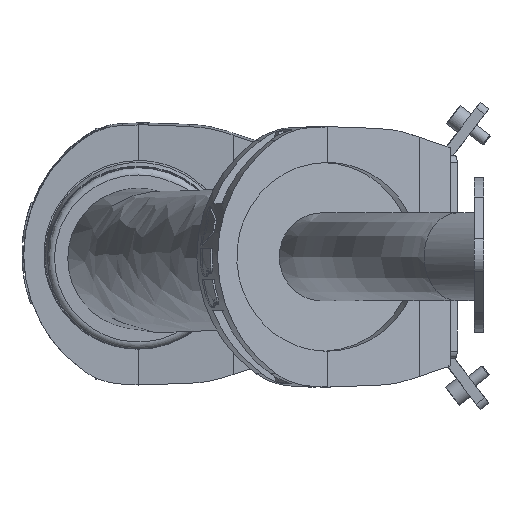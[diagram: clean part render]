
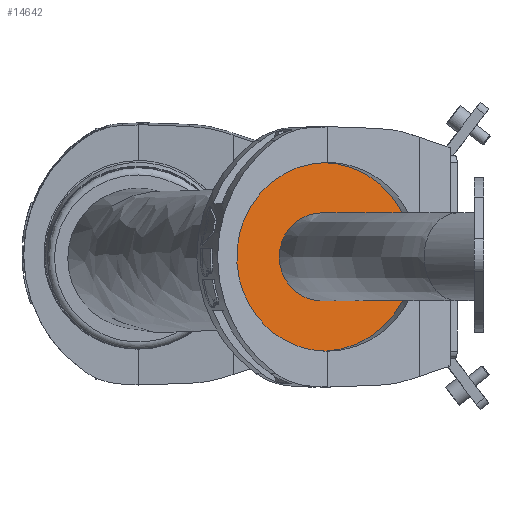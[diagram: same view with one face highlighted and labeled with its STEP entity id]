
A CAD part, left-side view. The second image highlights one B-rep face of the part: STEP entity #14642.
In plain terms, the highlighted planar face has unit normal (-0.966, -0.259, 0).
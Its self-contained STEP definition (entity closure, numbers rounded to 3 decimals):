
#194 = DIRECTION ( 'NONE',  ( -0.966, -0.259, 0. ) ) ;
#928 = CARTESIAN_POINT ( 'NONE',  ( 1108.854, 178.654, 2203.973 ) ) ;
#1713 = EDGE_CURVE ( 'NONE', #11262, #11262, #5292, .T. ) ;
#3078 = AXIS2_PLACEMENT_3D ( 'NONE', #928, #7131, #13379 ) ;
#3269 = DIRECTION ( 'NONE',  ( -0.258, 0.964, -0.069 ) ) ;
#3865 = EDGE_LOOP ( 'NONE', ( #11589 ) ) ;
#4501 = EDGE_CURVE ( 'NONE', #7628, #7628, #6652, .T. ) ;
#5023 = CARTESIAN_POINT ( 'NONE',  ( 1108.854, 178.654, 2228.973 ) ) ;
#5292 = CIRCLE ( 'NONE', #14447, 25. ) ;
#6125 = DIRECTION ( 'NONE',  ( 0., 0., 1. ) ) ;
#6154 = CARTESIAN_POINT ( 'NONE',  ( 1108.854, 178.654, 2203.973 ) ) ;
#6652 = CIRCLE ( 'NONE', #10595, 53.6 ) ;
#7131 = DIRECTION ( 'NONE',  ( 0.966, 0.259, 0. ) ) ;
#7239 = FACE_OUTER_BOUND ( 'NONE', #3865, .T. ) ;
#7628 = VERTEX_POINT ( 'NONE', #20082 ) ;
#7686 = DIRECTION ( 'NONE',  ( -0.966, -0.259, 0. ) ) ;
#10595 = AXIS2_PLACEMENT_3D ( 'NONE', #6154, #7686, #3269 ) ;
#11262 = VERTEX_POINT ( 'NONE', #5023 ) ;
#11589 = ORIENTED_EDGE ( 'NONE', *, *, #4501, .T. ) ;
#11731 = ORIENTED_EDGE ( 'NONE', *, *, #1713, .F. ) ;
#13067 = PLANE ( 'NONE',  #3078 ) ;
#13379 = DIRECTION ( 'NONE',  ( 0.258, -0.964, 0.069 ) ) ;
#14182 = CARTESIAN_POINT ( 'NONE',  ( 1108.854, 178.654, 2203.973 ) ) ;
#14447 = AXIS2_PLACEMENT_3D ( 'NONE', #14182, #194, #6125 ) ;
#14612 = FACE_BOUND ( 'NONE', #16726, .T. ) ;
#14642 = ADVANCED_FACE ( 'NONE', ( #14612, #7239 ), #13067, .F. ) ;
#16726 = EDGE_LOOP ( 'NONE', ( #11731 ) ) ;
#20082 = CARTESIAN_POINT ( 'NONE',  ( 1095.015, 230.304, 2200.265 ) ) ;
